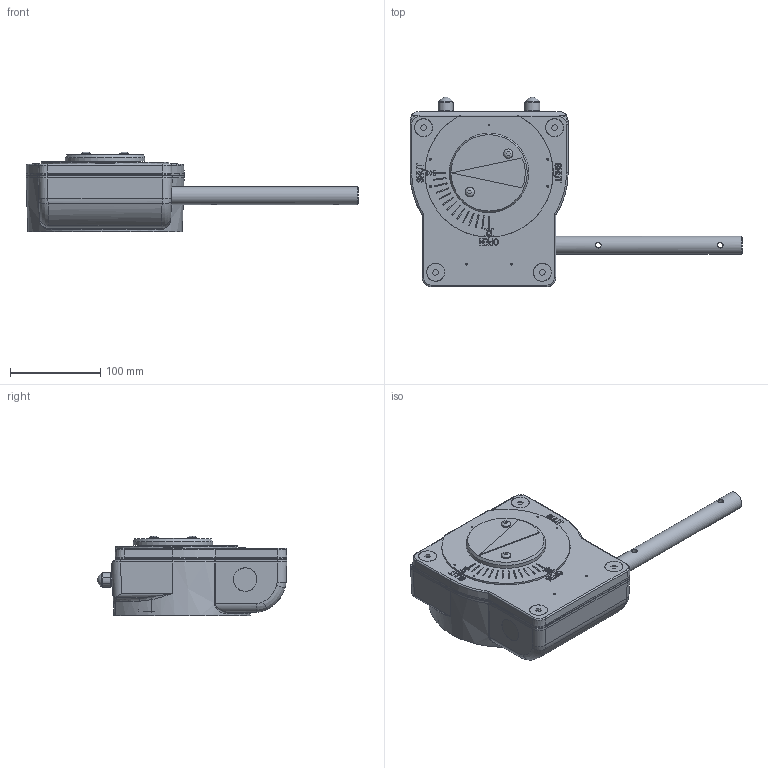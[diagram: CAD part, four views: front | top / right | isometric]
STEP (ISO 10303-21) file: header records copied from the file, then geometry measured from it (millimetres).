
FILE_DESCRIPTION( ( '' ), '1' );
FILE_NAME( 'M:/Current Drawings/Internet datasheets/4 - STEP/232-14.stp', '2014-06-12T09:43:37', ( 'Robbin Goosen' ), ( 'Rotork Gears' ), 'PSStep 16.0.42', 'Solid Edge ', ' ' );
FILE_SCHEMA( ( 'AUTOMOTIVE_DESIGN { 1 0 10303 214 1 1 1 1 }' ) );
Length unit declared in the file: millimetre
Products named in the file (3): 1; 2; 3
Bounding box: 367.5 x 209.8 x 87.99 mm (x, y, z)
Volume: 1035431.5 mm3; surface area: 333875.9 mm2
Topology: 3 solids, 12 shells, 2193 faces, 5662 edges, 3475 vertices
Faces by surface type: plane 864, cylinder 610, bspline 299, torus 183, cone 159, sphere 50, extrusion 28
Full cylindrical faces by diameter (mm): 4.2 x2, 5 x2, 5.5 x4, 6 x1, 6.1 x2, 8.376 x4, 8.5 x8, 9 x2, 10 x6, 10.2 x4, 10.5 x2, 11 x4, 12 x1, 15 x3, 16.5 x2, 19.67 x4, 20 x6, 23 x2, 24 x1, 26 x2, 72.1 x2, 74 x2, 75 x3, 79 x1, 86 x1, 88 x1
Entity records: 116776 total; most frequent: CARTESIAN_POINT 49324, ORIENTED_EDGE 10734, DIRECTION 9897, EDGE_CURVE 5367, AXIS2_PLACEMENT_3D 3856, VERTEX_POINT 3411, EDGE_LOOP 2461, FACE_OUTER_BOUND 2273
